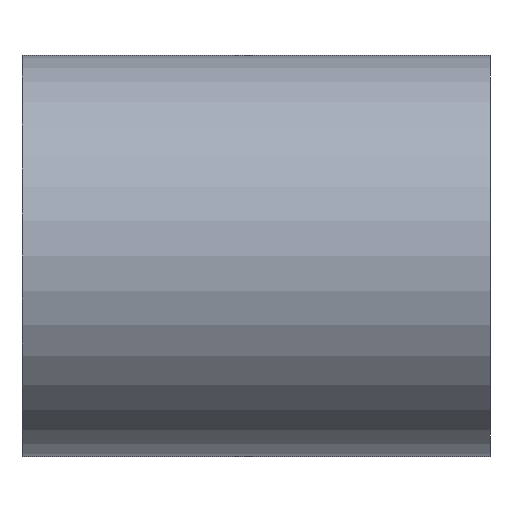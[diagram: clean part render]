
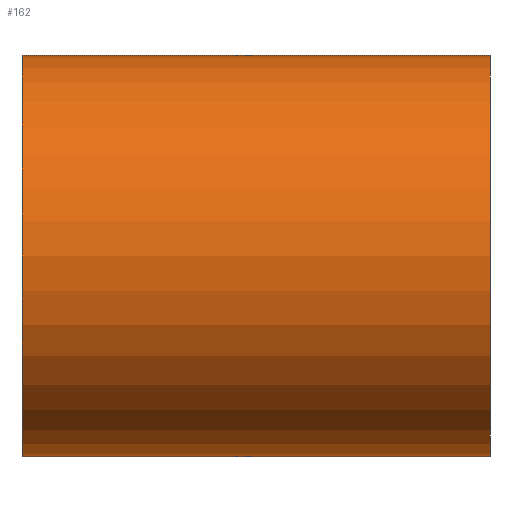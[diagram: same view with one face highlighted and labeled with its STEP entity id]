
A CAD part, front view. The second image highlights one B-rep face of the part: STEP entity #162.
In plain terms, the highlighted cylindrical face has radius 360 mm (diameter 720 mm), a partial arc.
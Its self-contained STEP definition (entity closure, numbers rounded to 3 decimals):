
#162=ADVANCED_FACE('',(#326),#327,.T.);
#326=FACE_OUTER_BOUND('',#509,.T.);
#327=CYLINDRICAL_SURFACE('',#510,360.0);
#509=EDGE_LOOP('',(#927,#928,#929,#930));
#510=AXIS2_PLACEMENT_3D('',#931,#932,#933);
#927=ORIENTED_EDGE('',*,*,#999,.T.);
#928=ORIENTED_EDGE('',*,*,#1173,.F.);
#929=ORIENTED_EDGE('',*,*,#1001,.T.);
#930=ORIENTED_EDGE('',*,*,#1174,.F.);
#931=CARTESIAN_POINT('',(0.0,0.0,0.0));
#932=DIRECTION('',(1.0,0.0,0.0));
#933=DIRECTION('',(0.0,0.0,-1.0));
#999=EDGE_CURVE('',#1178,#1179,#1180,.T.);
#1001=EDGE_CURVE('',#1183,#1181,#1184,.T.);
#1173=EDGE_CURVE('',#1183,#1179,#1439,.T.);
#1174=EDGE_CURVE('',#1178,#1181,#1440,.T.);
#1178=VERTEX_POINT('',#1444);
#1179=VERTEX_POINT('',#1445);
#1180=LINE('',#1446,#1447);
#1181=VERTEX_POINT('',#1448);
#1183=VERTEX_POINT('',#1450);
#1184=LINE('',#1451,#1452);
#1439=CIRCLE('',#1759,360.0);
#1440=CIRCLE('',#1760,360.0);
#1444=CARTESIAN_POINT('',(-420.0,0.0,-360.0));
#1445=CARTESIAN_POINT('',(420.0,0.0,-360.0));
#1446=CARTESIAN_POINT('',(0.0,0.,-360.0));
#1447=VECTOR('',#1763,1.0);
#1448=CARTESIAN_POINT('',(-420.0,0.,360.0));
#1450=CARTESIAN_POINT('',(420.0,0.,360.0));
#1451=CARTESIAN_POINT('',(0.0,0.,360.0));
#1452=VECTOR('',#1767,1.0);
#1759=AXIS2_PLACEMENT_3D('',#2042,#2043,#2044);
#1760=AXIS2_PLACEMENT_3D('',#2045,#2046,#2047);
#1763=DIRECTION('',(1.0,0.0,0.0));
#1767=DIRECTION('',(-1.0,-0.0,-0.0));
#2042=CARTESIAN_POINT('',(420.0,0.0,0.0));
#2043=DIRECTION('',(1.0,0.0,0.0));
#2044=DIRECTION('',(0.0,0.0,-1.0));
#2045=CARTESIAN_POINT('',(-420.0,0.0,0.0));
#2046=DIRECTION('',(-1.0,0.0,0.0));
#2047=DIRECTION('',(0.0,0.0,-1.0));
